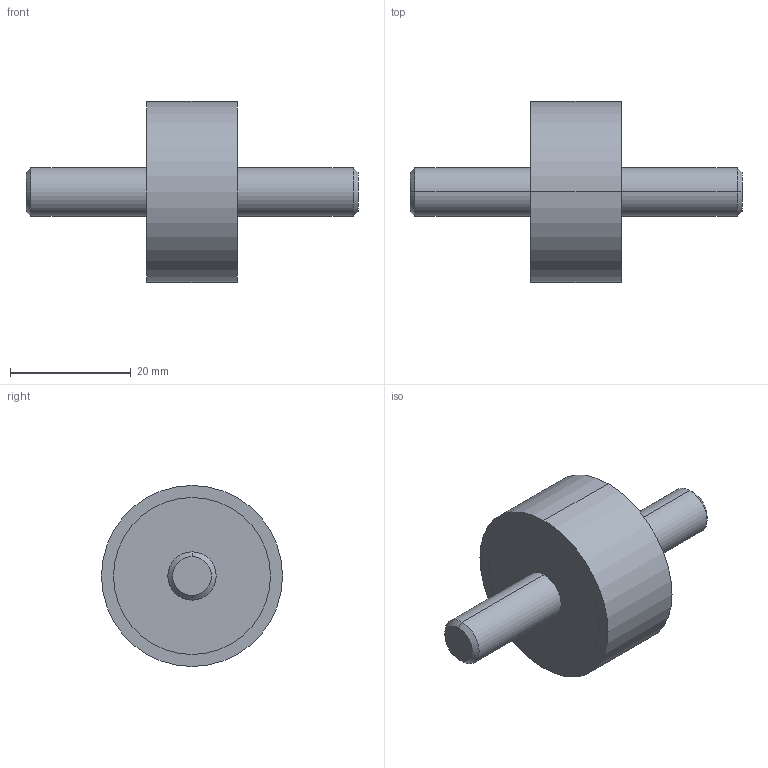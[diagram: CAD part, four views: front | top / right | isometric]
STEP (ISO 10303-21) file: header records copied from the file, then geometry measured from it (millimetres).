
FILE_DESCRIPTION (( 'STEP AP214' ), '1' );
FILE_NAME ('351-30-15-M8-SS-55.step', '2025-07-23T09:53:12', ( '' ), ( '' ), 'SwSTEP 2.0', 'SolidWorks 2022', '' );
FILE_SCHEMA (( 'AUTOMOTIVE_DESIGN' ));
Length unit declared in the file: millimetre
Products named in the file (1): 351-30-15-M8-SS-55
Bounding box: 55 x 30 x 30 mm (x, y, z)
Volume: 12588.9 mm3; surface area: 3809.7 mm2
Topology: 1 solids, 1 shells, 20 faces, 38 edges, 24 vertices
Faces by surface type: cylinder 10, plane 6, cone 4
Entity records: 636 total; most frequent: DIRECTION 104, CARTESIAN_POINT 83, ORIENTED_EDGE 76, AXIS2_PLACEMENT_3D 45, EDGE_CURVE 38, EDGE_LOOP 24, CIRCLE 24, VERTEX_POINT 24
